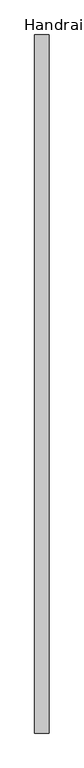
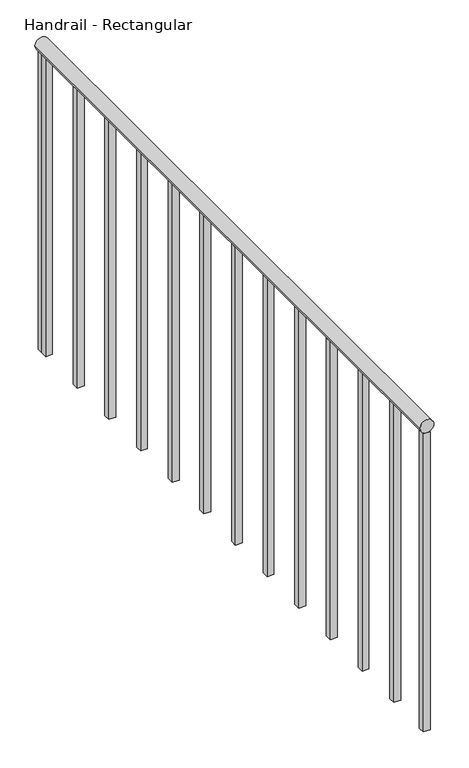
"""IFC4 building model written with IfcOpenShell, lengths in millimetres: railing geometry, Handrail - Rectangular."""

from ifc_helpers import new_model, si_unit, point, frame, frame_2d, origin, place, context, project, spatial, polyline, circle_curve, trimmed, segment, composite_curve, outline, extrude, source, transform, mapped, element, save


def handrail_rectangular_cb3c633e(model_context):
    return source(origin(), model_context, "Body", "SweptSolid", [
        extrude(outline(composite_curve([segment(trimmed(circle_curve(frame_2d((3943.35, 2297.1410437)), 19.05), [point((3943.35, 2316.1910437))], [point((3943.35, 2278.0910437))], False, "CARTESIAN"), True, "CONTINUOUS"), segment(trimmed(circle_curve(frame_2d((3943.35, 2297.1410437)), 19.05), [point((3943.35, 2278.0910437))], [point((3943.35, 2316.1910437))], False, "CARTESIAN"), True, "CONTINUOUS")], self_intersect=False)), frame((0.0, -30041.3683133, 0.0), z_axis=(0.0, 1.0, 0.0), x_axis=(0.0, 0.0, 1.0)), (0.0, 0.0, 1.0), 1854.2),
        extrude(outline(polyline([(2287.6160437, -28222.0933133), (2287.6160437, -28203.0433133), (2306.6660437, -28203.0433133), (2306.6660437, -28222.0933133), (2287.6160437, -28222.0933133)])), frame((0.0, 0.0, 3048.0), z_axis=(0.0, 0.0, 1.0), x_axis=(1.0, 0.0, 0.0)), (0.0, 0.0, 1.0), 876.3),
        extrude(outline(polyline([(2287.6160437, -28374.4933133), (2287.6160437, -28355.4433133), (2306.6660437, -28355.4433133), (2306.6660437, -28374.4933133), (2287.6160437, -28374.4933133)])), frame((0.0, 0.0, 3048.0), z_axis=(0.0, 0.0, 1.0), x_axis=(1.0, 0.0, 0.0)), (0.0, 0.0, 1.0), 876.3),
        extrude(outline(polyline([(2287.6160437, -28526.8933133), (2287.6160437, -28507.8433133), (2306.6660437, -28507.8433133), (2306.6660437, -28526.8933133), (2287.6160437, -28526.8933133)])), frame((0.0, 0.0, 3048.0), z_axis=(0.0, 0.0, 1.0), x_axis=(1.0, 0.0, 0.0)), (0.0, 0.0, 1.0), 876.3),
        extrude(outline(polyline([(2287.6160437, -28679.2933133), (2287.6160437, -28660.2433133), (2306.6660437, -28660.2433133), (2306.6660437, -28679.2933133), (2287.6160437, -28679.2933133)])), frame((0.0, 0.0, 3048.0), z_axis=(0.0, 0.0, 1.0), x_axis=(1.0, 0.0, 0.0)), (0.0, 0.0, 1.0), 876.3),
        extrude(outline(polyline([(2287.6160437, -28831.6933133), (2287.6160437, -28812.6433133), (2306.6660437, -28812.6433133), (2306.6660437, -28831.6933133), (2287.6160437, -28831.6933133)])), frame((0.0, 0.0, 3048.0), z_axis=(0.0, 0.0, 1.0), x_axis=(1.0, 0.0, 0.0)), (0.0, 0.0, 1.0), 876.3),
        extrude(outline(polyline([(2287.6160437, -28984.0933133), (2287.6160437, -28965.0433133), (2306.6660437, -28965.0433133), (2306.6660437, -28984.0933133), (2287.6160437, -28984.0933133)])), frame((0.0, 0.0, 3048.0), z_axis=(0.0, 0.0, 1.0), x_axis=(1.0, 0.0, 0.0)), (0.0, 0.0, 1.0), 876.3),
        extrude(outline(polyline([(2287.6160437, -29136.4933133), (2287.6160437, -29117.4433133), (2306.6660437, -29117.4433133), (2306.6660437, -29136.4933133), (2287.6160437, -29136.4933133)])), frame((0.0, 0.0, 3048.0), z_axis=(0.0, 0.0, 1.0), x_axis=(1.0, 0.0, 0.0)), (0.0, 0.0, 1.0), 876.3),
        extrude(outline(polyline([(2287.6160437, -29288.8933133), (2287.6160437, -29269.8433133), (2306.6660437, -29269.8433133), (2306.6660437, -29288.8933133), (2287.6160437, -29288.8933133)])), frame((0.0, 0.0, 3048.0), z_axis=(0.0, 0.0, 1.0), x_axis=(1.0, 0.0, 0.0)), (0.0, 0.0, 1.0), 876.3),
        extrude(outline(polyline([(2287.6160437, -29441.2933133), (2287.6160437, -29422.2433133), (2306.6660437, -29422.2433133), (2306.6660437, -29441.2933133), (2287.6160437, -29441.2933133)])), frame((0.0, 0.0, 3048.0), z_axis=(0.0, 0.0, 1.0), x_axis=(1.0, 0.0, 0.0)), (0.0, 0.0, 1.0), 876.3),
        extrude(outline(polyline([(2287.6160437, -29593.6933133), (2287.6160437, -29574.6433133), (2306.6660437, -29574.6433133), (2306.6660437, -29593.6933133), (2287.6160437, -29593.6933133)])), frame((0.0, 0.0, 3048.0), z_axis=(0.0, 0.0, 1.0), x_axis=(1.0, 0.0, 0.0)), (0.0, 0.0, 1.0), 876.3),
        extrude(outline(polyline([(2287.6160437, -29746.0933133), (2287.6160437, -29727.0433133), (2306.6660437, -29727.0433133), (2306.6660437, -29746.0933133), (2287.6160437, -29746.0933133)])), frame((0.0, 0.0, 3048.0), z_axis=(0.0, 0.0, 1.0), x_axis=(1.0, 0.0, 0.0)), (0.0, 0.0, 1.0), 876.3),
        extrude(outline(polyline([(2287.6160437, -29898.4933133), (2287.6160437, -29879.4433133), (2306.6660437, -29879.4433133), (2306.6660437, -29898.4933133), (2287.6160437, -29898.4933133)])), frame((0.0, 0.0, 3048.0), z_axis=(0.0, 0.0, 1.0), x_axis=(1.0, 0.0, 0.0)), (0.0, 0.0, 1.0), 876.3),
        extrude(outline(polyline([(2287.6160437, -28206.2183133), (2287.6160437, -28187.1683133), (2306.6660437, -28187.1683133), (2306.6660437, -28206.2183133), (2287.6160437, -28206.2183133)])), frame((0.0, 0.0, 3048.0), z_axis=(0.0, 0.0, 1.0), x_axis=(1.0, 0.0, 0.0)), (0.0, 0.0, 1.0), 876.3),
        extrude(outline(polyline([(2287.6160437, -30041.3683133), (2287.6160437, -30022.3183133), (2306.6660437, -30022.3183133), (2306.6660437, -30041.3683133), (2287.6160437, -30041.3683133)])), frame((0.0, 0.0, 3048.0), z_axis=(0.0, 0.0, 1.0), x_axis=(1.0, 0.0, 0.0)), (0.0, 0.0, 1.0), 876.3),
    ])


if __name__ == "__main__":
    model = new_model("IFC4")
    model_context = context("Model", 3, world=origin())
    ifc_project = project(units=[si_unit("LENGTHUNIT", "METRE", prefix="MILLI")], contexts=[model_context])
    site = spatial("IfcSite", under=ifc_project)
    building = spatial("IfcBuilding", under=site)
    placement = place(None, origin())
    handrail_rectangular_shape = handrail_rectangular_cb3c633e(model_context)
    element("IfcRailing", 1, ObjectType="Handrail - Rectangular", at=placement, inside=building, context=model_context, shape_type="MappedRepresentation", body=[
        mapped(handrail_rectangular_shape, transform((0.0, 0.0, 0.0), x_axis=(1.0, 0.0, 0.0), y_axis=(0.0, 1.0, 0.0), z_axis=(0.0, 0.0, 1.0))),
    ])
    save(model, "model.ifc")
